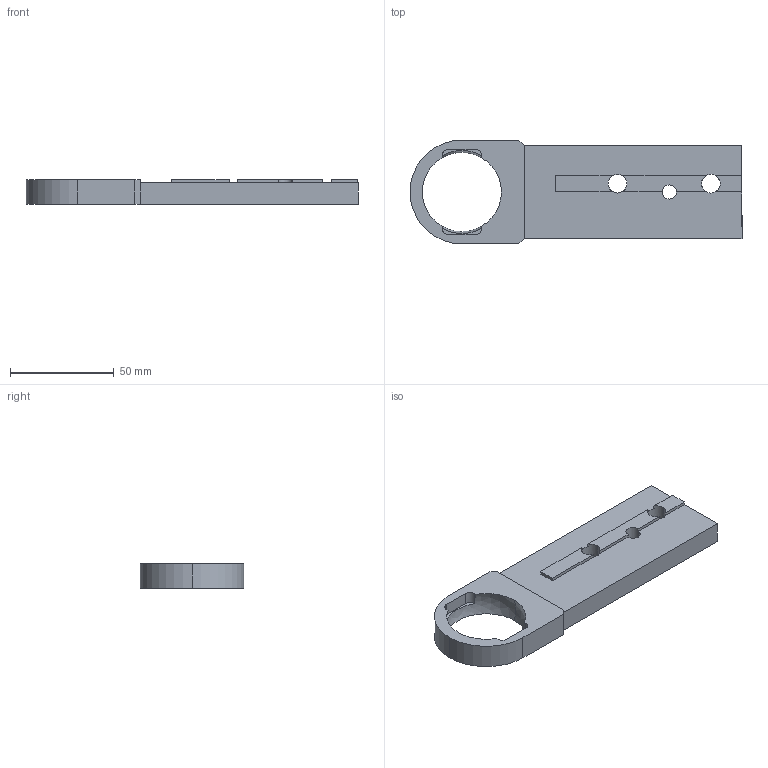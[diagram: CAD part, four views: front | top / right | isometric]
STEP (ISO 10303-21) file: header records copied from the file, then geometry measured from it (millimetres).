
FILE_DESCRIPTION (( 'STEP AP203' ), '1' );
FILE_NAME ('1000.50.00.005DX.STEP', '2013-01-29T15:24:56', ( 'Alusic' ), ( 'Alusic' ), 'SwSTEP 2.0', 'SolidWorks 2011', '' );
FILE_SCHEMA (( 'CONFIG_CONTROL_DESIGN' ));
Length unit declared in the file: millimetre
Products named in the file (1): 1000.50.00.005DX
Bounding box: 160 x 50 x 12 mm (x, y, z)
Volume: 62731.1 mm3; surface area: 19017.6 mm2
Topology: 1 solids, 1 shells, 50 faces, 147 edges, 96 vertices
Faces by surface type: plane 32, cylinder 16, sphere 2
Entity records: 1746 total; most frequent: CARTESIAN_POINT 300, DIRECTION 295, ORIENTED_EDGE 286, EDGE_CURVE 143, AXIS2_PLACEMENT_3D 105, VERTEX_POINT 94, VECTOR 85, LINE 85
